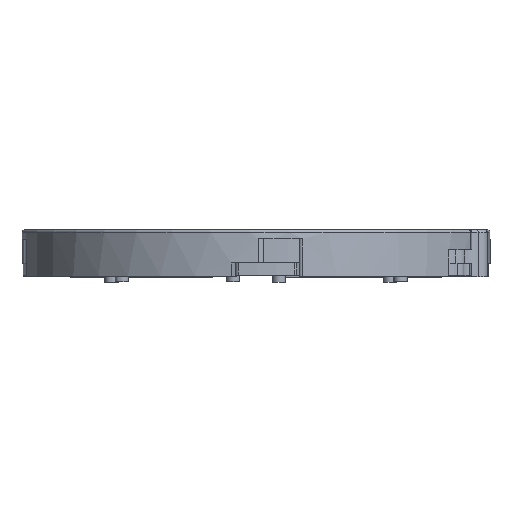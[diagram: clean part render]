
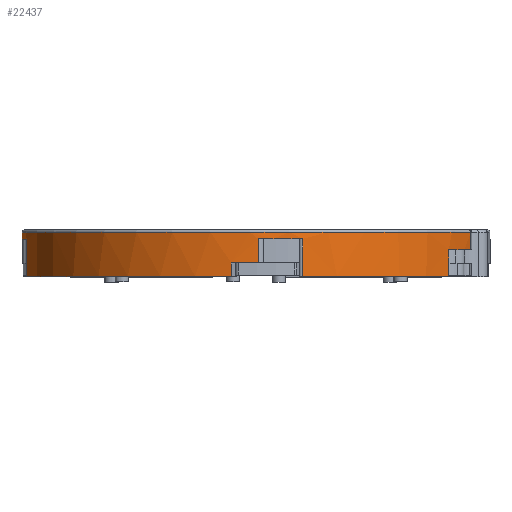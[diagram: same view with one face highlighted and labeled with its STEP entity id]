
A CAD part, top view. The second image highlights one B-rep face of the part: STEP entity #22437.
In plain terms, the highlighted cylindrical face has radius 17.5 mm (diameter 35 mm), a partial arc.
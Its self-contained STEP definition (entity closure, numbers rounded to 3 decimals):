
#1710=FACE_OUTER_BOUND('',#3011,.T.);
#3011=EDGE_LOOP('',(#17353,#17354,#17355,#17356,#17357,#17358,#17359,#17360,
#17361,#17362,#17363,#17364,#17365,#17366,#17367,#17368,#17369,#17370));
#3956=CIRCLE('',#23388,17.5);
#3964=CIRCLE('',#23402,17.5);
#4036=CIRCLE('',#23651,17.5);
#4042=CIRCLE('',#23658,17.5);
#4050=CIRCLE('',#23668,17.5);
#4079=CIRCLE('',#23714,17.5);
#4103=CIRCLE('',#23820,17.5);
#4104=CIRCLE('',#23821,17.5);
#4105=CIRCLE('',#23822,17.5);
#5076=LINE('',#32926,#7222);
#5081=LINE('',#32955,#7227);
#5314=LINE('',#34293,#7460);
#5315=LINE('',#34296,#7461);
#5316=LINE('',#34298,#7462);
#5317=LINE('',#34300,#7463);
#5318=LINE('',#34303,#7464);
#5319=LINE('',#34304,#7465);
#5320=LINE('',#34306,#7466);
#7222=VECTOR('',#26177,10.);
#7227=VECTOR('',#26216,10.);
#7460=VECTOR('',#26629,10.);
#7461=VECTOR('',#26632,10.);
#7462=VECTOR('',#26635,10.);
#7463=VECTOR('',#26636,10.);
#7464=VECTOR('',#26639,10.);
#7465=VECTOR('',#26640,10.);
#7466=VECTOR('',#26641,10.);
#9522=VERTEX_POINT('',#30088);
#9523=VERTEX_POINT('',#30090);
#9535=VERTEX_POINT('',#30126);
#9536=VERTEX_POINT('',#30128);
#10094=VERTEX_POINT('',#32760);
#10095=VERTEX_POINT('',#32762);
#10098=VERTEX_POINT('',#32770);
#10100=VERTEX_POINT('',#32774);
#10106=VERTEX_POINT('',#32789);
#10110=VERTEX_POINT('',#32796);
#10154=VERTEX_POINT('',#32916);
#10156=VERTEX_POINT('',#32922);
#10158=VERTEX_POINT('',#32928);
#10395=VERTEX_POINT('',#34291);
#10396=VERTEX_POINT('',#34295);
#10397=VERTEX_POINT('',#34299);
#10398=VERTEX_POINT('',#34301);
#10399=VERTEX_POINT('',#34305);
#11779=EDGE_CURVE('',#9523,#9522,#3956,.T.);
#11798=EDGE_CURVE('',#9536,#9535,#3964,.T.);
#12570=EDGE_CURVE('',#10094,#10095,#4036,.T.);
#12577=EDGE_CURVE('',#10100,#10098,#4042,.T.);
#12587=EDGE_CURVE('',#10110,#10106,#4050,.T.);
#12648=EDGE_CURVE('',#10154,#10156,#5076,.T.);
#12650=EDGE_CURVE('',#10158,#10154,#4079,.T.);
#12663=EDGE_CURVE('',#10106,#10158,#5081,.T.);
#13009=EDGE_CURVE('',#9523,#10395,#5314,.T.);
#13010=EDGE_CURVE('',#10396,#10110,#5315,.T.);
#13011=EDGE_CURVE('',#10396,#10395,#4103,.T.);
#13012=EDGE_CURVE('',#10095,#9522,#5316,.T.);
#13013=EDGE_CURVE('',#10397,#10094,#5317,.T.);
#13014=EDGE_CURVE('',#10397,#10398,#4104,.T.);
#13015=EDGE_CURVE('',#9536,#10398,#5318,.T.);
#13016=EDGE_CURVE('',#10098,#9535,#5319,.T.);
#13017=EDGE_CURVE('',#10100,#10399,#5320,.T.);
#13018=EDGE_CURVE('',#10399,#10156,#4105,.T.);
#17353=ORIENTED_EDGE('',*,*,#12648,.F.);
#17354=ORIENTED_EDGE('',*,*,#12650,.F.);
#17355=ORIENTED_EDGE('',*,*,#12663,.F.);
#17356=ORIENTED_EDGE('',*,*,#12587,.F.);
#17357=ORIENTED_EDGE('',*,*,#13010,.F.);
#17358=ORIENTED_EDGE('',*,*,#13011,.T.);
#17359=ORIENTED_EDGE('',*,*,#13009,.F.);
#17360=ORIENTED_EDGE('',*,*,#11779,.T.);
#17361=ORIENTED_EDGE('',*,*,#13012,.F.);
#17362=ORIENTED_EDGE('',*,*,#12570,.F.);
#17363=ORIENTED_EDGE('',*,*,#13013,.F.);
#17364=ORIENTED_EDGE('',*,*,#13014,.T.);
#17365=ORIENTED_EDGE('',*,*,#13015,.F.);
#17366=ORIENTED_EDGE('',*,*,#11798,.T.);
#17367=ORIENTED_EDGE('',*,*,#13016,.F.);
#17368=ORIENTED_EDGE('',*,*,#12577,.F.);
#17369=ORIENTED_EDGE('',*,*,#13017,.T.);
#17370=ORIENTED_EDGE('',*,*,#13018,.T.);
#21853=CYLINDRICAL_SURFACE('',#23819,17.5);
#22437=ADVANCED_FACE('',(#1710),#21853,.T.);
#23388=AXIS2_PLACEMENT_3D('',#30091,#24970,#24971);
#23402=AXIS2_PLACEMENT_3D('',#30129,#25009,#25010);
#23651=AXIS2_PLACEMENT_3D('',#32763,#26021,#26022);
#23658=AXIS2_PLACEMENT_3D('',#32776,#26036,#26037);
#23668=AXIS2_PLACEMENT_3D('',#32798,#26058,#26059);
#23714=AXIS2_PLACEMENT_3D('',#32930,#26182,#26183);
#23819=AXIS2_PLACEMENT_3D('',#34294,#26630,#26631);
#23820=AXIS2_PLACEMENT_3D('',#34297,#26633,#26634);
#23821=AXIS2_PLACEMENT_3D('',#34302,#26637,#26638);
#23822=AXIS2_PLACEMENT_3D('',#34307,#26642,#26643);
#24970=DIRECTION('center_axis',(0.,1.,0.));
#24971=DIRECTION('ref_axis',(-1.,0.,0.));
#25009=DIRECTION('center_axis',(0.,1.,0.));
#25010=DIRECTION('ref_axis',(-1.,0.,0.));
#26021=DIRECTION('center_axis',(0.,-1.,0.));
#26022=DIRECTION('ref_axis',(-0.105,0.,0.994));
#26036=DIRECTION('center_axis',(0.,-1.,0.));
#26037=DIRECTION('ref_axis',(0.824,0.,0.567));
#26058=DIRECTION('center_axis',(0.,-1.,0.));
#26059=DIRECTION('ref_axis',(-0.994,0.,-0.105));
#26177=DIRECTION('',(0.,-1.,0.));
#26182=DIRECTION('center_axis',(0.,1.,0.));
#26183=DIRECTION('ref_axis',(-0.278,0.,0.961));
#26216=DIRECTION('',(0.,1.,0.));
#26629=DIRECTION('',(0.,-1.,0.));
#26630=DIRECTION('center_axis',(0.,1.,0.));
#26631=DIRECTION('ref_axis',(-1.,0.,0.));
#26632=DIRECTION('',(0.,-1.,0.));
#26633=DIRECTION('center_axis',(0.,1.,0.));
#26634=DIRECTION('ref_axis',(-0.98,0.,0.199));
#26635=DIRECTION('',(0.,1.,0.));
#26636=DIRECTION('',(0.,-1.,0.));
#26637=DIRECTION('center_axis',(0.,1.,0.));
#26638=DIRECTION('ref_axis',(0.199,0.,0.98));
#26639=DIRECTION('',(0.,-1.,0.));
#26640=DIRECTION('',(0.,1.,0.));
#26641=DIRECTION('',(0.,1.,0.));
#26642=DIRECTION('center_axis',(0.,1.,0.));
#26643=DIRECTION('ref_axis',(-1.,0.,0.));
#30088=CARTESIAN_POINT('',(-17.151,1.8,3.479));
#30090=CARTESIAN_POINT('',(-17.499,1.8,0.156));
#30091=CARTESIAN_POINT('Origin',(0.,1.8,0.));
#30126=CARTESIAN_POINT('',(3.479,1.8,17.151));
#30128=CARTESIAN_POINT('',(0.156,1.8,17.499));
#30129=CARTESIAN_POINT('Origin',(0.,1.8,0.));
#32760=CARTESIAN_POINT('',(-1.843,-1.,17.403));
#32762=CARTESIAN_POINT('',(-17.151,-1.,3.479));
#32763=CARTESIAN_POINT('Origin',(0.,-1.,0.));
#32770=CARTESIAN_POINT('',(3.479,-1.,17.151));
#32774=CARTESIAN_POINT('',(14.414,-1.,9.924));
#32776=CARTESIAN_POINT('Origin',(0.,-1.,0.));
#32789=CARTESIAN_POINT('',(-17.289,-1.,-2.708));
#32796=CARTESIAN_POINT('',(-17.403,-1.,-1.843));
#32798=CARTESIAN_POINT('Origin',(0.,-1.,0.));
#32916=CARTESIAN_POINT('',(16.065,2.3,6.941));
#32922=CARTESIAN_POINT('',(16.065,1.,6.941));
#32926=CARTESIAN_POINT('',(16.065,1.25,6.941));
#32928=CARTESIAN_POINT('',(-17.289,2.3,-2.708));
#32930=CARTESIAN_POINT('Origin',(0.,2.3,0.));
#32955=CARTESIAN_POINT('',(-17.289,1.25,-2.708));
#34291=CARTESIAN_POINT('',(-17.499,0.,0.156));
#34293=CARTESIAN_POINT('',(-17.499,1.25,0.156));
#34294=CARTESIAN_POINT('Origin',(0.,1.25,0.));
#34295=CARTESIAN_POINT('',(-17.403,0.,-1.843));
#34296=CARTESIAN_POINT('',(-17.403,0.,-1.843));
#34297=CARTESIAN_POINT('Origin',(0.,0.,
0.));
#34298=CARTESIAN_POINT('',(-17.151,1.25,3.479));
#34299=CARTESIAN_POINT('',(-1.843,0.,17.403));
#34300=CARTESIAN_POINT('',(-1.843,0.,17.403));
#34301=CARTESIAN_POINT('',(0.156,0.,17.499));
#34302=CARTESIAN_POINT('Origin',(0.,0.,
0.));
#34303=CARTESIAN_POINT('',(0.156,1.25,17.499));
#34304=CARTESIAN_POINT('',(3.479,1.25,17.151));
#34305=CARTESIAN_POINT('',(14.414,1.,9.924));
#34306=CARTESIAN_POINT('',(14.414,0.,9.924));
#34307=CARTESIAN_POINT('Origin',(0.,1.,0.));
